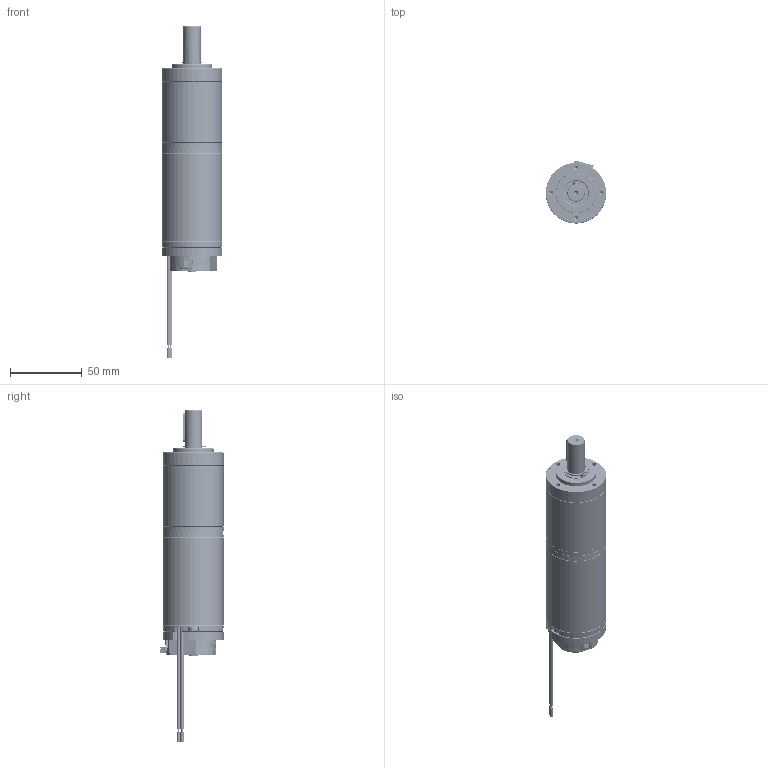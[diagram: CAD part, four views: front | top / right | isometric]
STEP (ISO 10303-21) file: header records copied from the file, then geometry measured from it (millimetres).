
FILE_DESCRIPTION (( 'STEP AP214' ), '1' );
FILE_NAME ('BRx42-25-PGx42 (2 Stage) - Diff Encoder.STEP', '2025-05-13T07:04:59', ( '' ), ( '' ), 'SwSTEP 2.0', 'SolidWorks 2023', '' );
FILE_SCHEMA (( 'AUTOMOTIVE_DESIGN' ));
Length unit declared in the file: millimetre
Products named in the file (1): BRx42-25-PGx42 (2 Stage) - Diff Encoder
Bounding box: 42 x 43.94 x 230.65 mm (x, y, z)
Volume: 120968.6 mm3; surface area: 72177.1 mm2
Topology: 32 solids, 34 shells, 7952 faces, 21054 edges, 13855 vertices
Faces by surface type: plane 5180, cylinder 1799, cone 496, torus 234, bspline 227, sphere 16
Entity records: 345796 total; most frequent: CARTESIAN_POINT 58913, ORIENTED_EDGE 42074, DIRECTION 40111, EDGE_CURVE 21037, LINE 14819, VECTOR 14819, VERTEX_POINT 13855, AXIS2_PLACEMENT_3D 12646
